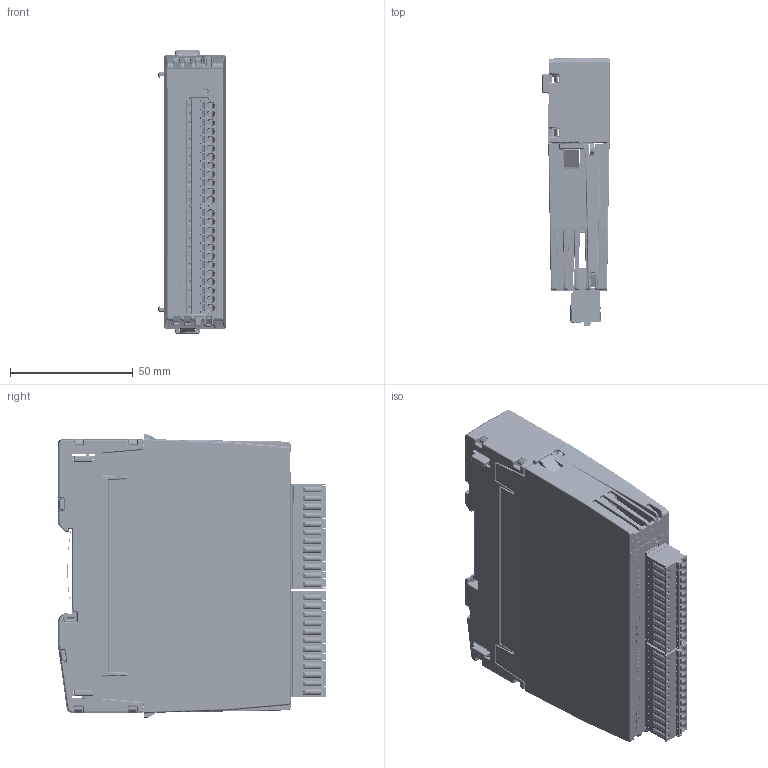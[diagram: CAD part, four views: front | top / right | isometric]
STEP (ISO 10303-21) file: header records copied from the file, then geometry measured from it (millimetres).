
FILE_DESCRIPTION(/* description */ (''),/* implementation_level */ '2;1');
FILE_NAME(/* name */ 'C:\Users\Public\Documents\Autodesk\Inventor 2023\DI20B_Simplified+BackBB21A.stp',/* time_stamp */ '2024-10-15T20:47:08+02:00',/* author */ ('shoma'),/* organization */ (''),/* preprocessor_version */ 'ST-DEVELOPER v19',/* originating_system */ 'Autodesk Inventor 2023',/* authorisation */ '');
FILE_SCHEMA (('AUTOMOTIVE_DESIGN { 1 0 10303 214 3 1 1 }'));
Products named in the file (1): DI20B_Simplified+BackBB21A
Bounding box: 27.4 x 109.39 x 115.5 mm (x, y, z)
Volume: 155135.3 mm3; surface area: 94473.6 mm2
Topology: 7 solids, 57 shells, 9496 faces, 25249 edges, 15928 vertices
Faces by surface type: plane 5762, cylinder 2404, bspline 886, cone 237, sphere 162, torus 45
Full cylindrical faces by diameter (mm): 0.296 x2, 0.3 x152, 0.457 x2, 0.7 x36, 0.8 x6, 0.85 x24, 0.9 x8, 1.17 x24, 1.2 x24, 1.25 x24, 1.3 x24, 1.4 x4, 1.6 x26, 2.35 x2, 2.5 x1, 3 x1, 3.1 x24, 3.25 x2
Entity records: 328381 total; most frequent: CARTESIAN_POINT 84059, ORIENTED_EDGE 50192, DIRECTION 46422, EDGE_CURVE 25096, LINE 17784, VECTOR 17784, VERTEX_POINT 15928, AXIS2_PLACEMENT_3D 14319
